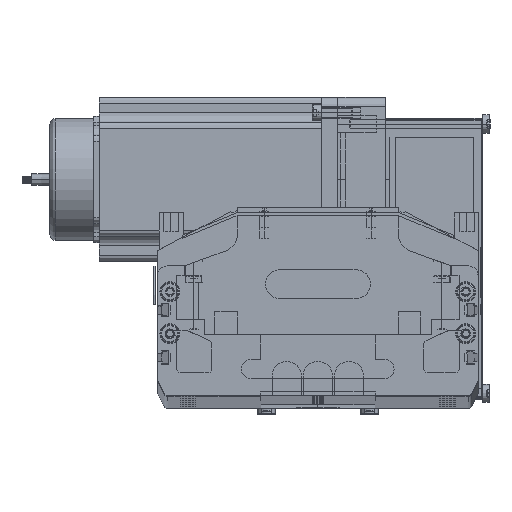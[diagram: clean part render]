
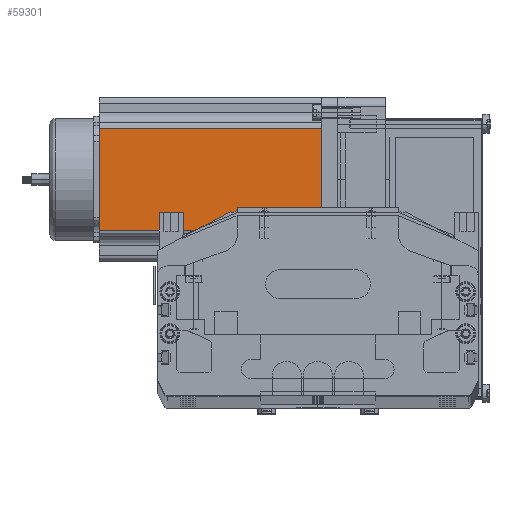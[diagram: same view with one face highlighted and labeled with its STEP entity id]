
A CAD part, top view. The second image highlights one B-rep face of the part: STEP entity #59301.
In plain terms, the highlighted planar face has unit normal (0, 0, 1) as drawn and (0, -1, 0) by its records, which use the part's own axes.
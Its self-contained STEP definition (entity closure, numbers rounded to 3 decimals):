
#58950 = ORIENTED_EDGE ( 'NONE', *, *, #58951, .T. ) ;
#58951 = EDGE_CURVE ( 'NONE', #59300, #59486, #80437, .T. ) ;
#58952 = EDGE_CURVE ( 'NONE', #59478, #59486, #80431, .T. ) ;
#58957 = ORIENTED_EDGE ( 'NONE', *, *, #58952, .F. ) ;
#58958 = EDGE_CURVE ( 'NONE', #59478, #59299, #80425, .T. ) ;
#58959 = ORIENTED_EDGE ( 'NONE', *, *, #58958, .T. ) ;
#59298 = EDGE_LOOP ( 'NONE', ( #59488, #58950, #58957, #58959 ) ) ;
#59299 = VERTEX_POINT ( 'NONE', #83401 ) ;
#59300 = VERTEX_POINT ( 'NONE', #82752 ) ;
#59301 = ADVANCED_FACE ( 'NONE', ( #82751 ), #90719, .F. ) ;
#59373 = EDGE_CURVE ( 'NONE', #59299, #59300, #89965, .T. ) ;
#59478 = VERTEX_POINT ( 'NONE', #90258 ) ;
#59486 = VERTEX_POINT ( 'NONE', #90313 ) ;
#59488 = ORIENTED_EDGE ( 'NONE', *, *, #59373, .T. ) ;
#80413 = DIRECTION ( 'NONE',  ( 0., 0., -1. ) ) ;
#80415 = VECTOR ( 'NONE', #80413, 1000. ) ;
#80424 = CARTESIAN_POINT ( 'NONE',  ( 16.16, 0., 116.5 ) ) ;
#80425 = LINE ( 'NONE', #80424, #80415 ) ;
#80428 = DIRECTION ( 'NONE',  ( 1., 0., 0. ) ) ;
#80429 = VECTOR ( 'NONE', #80428, 1000. ) ;
#80430 = CARTESIAN_POINT ( 'NONE',  ( 0., 0., 116.5 ) ) ;
#80431 = LINE ( 'NONE', #80430, #80429 ) ;
#80434 = DIRECTION ( 'NONE',  ( 0., 0., 1. ) ) ;
#80435 = VECTOR ( 'NONE', #80434, 1000. ) ;
#80436 = CARTESIAN_POINT ( 'NONE',  ( 69.74, 0., 116.5 ) ) ;
#80437 = LINE ( 'NONE', #80436, #80435 ) ;
#82751 = FACE_OUTER_BOUND ( 'NONE', #59298, .T. ) ;
#82752 = CARTESIAN_POINT ( 'NONE',  ( 69.74, 0., 0. ) ) ;
#83401 = CARTESIAN_POINT ( 'NONE',  ( 16.16, 0., 0. ) ) ;
#89958 = DIRECTION ( 'NONE',  ( 1., 0., 0. ) ) ;
#89959 = VECTOR ( 'NONE', #89958, 1000. ) ;
#89960 = CARTESIAN_POINT ( 'NONE',  ( 0., 0., 0. ) ) ;
#89965 = LINE ( 'NONE', #89960, #89959 ) ;
#90258 = CARTESIAN_POINT ( 'NONE',  ( 16.16, 0., 116.5 ) ) ;
#90313 = CARTESIAN_POINT ( 'NONE',  ( 69.74, 0., 116.5 ) ) ;
#90716 = DIRECTION ( 'NONE',  ( 0., 0., 1. ) ) ;
#90717 = DIRECTION ( 'NONE',  ( 0., 1., 0. ) ) ;
#90718 = CARTESIAN_POINT ( 'NONE',  ( 0., 0., 116.5 ) ) ;
#90719 = PLANE ( 'NONE',  #90720 ) ;
#90720 = AXIS2_PLACEMENT_3D ( 'NONE', #90718, #90717, #90716 ) ;
